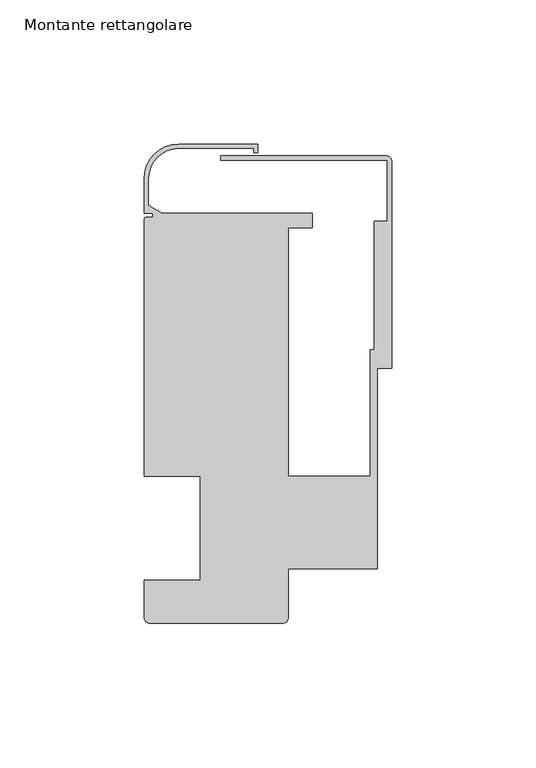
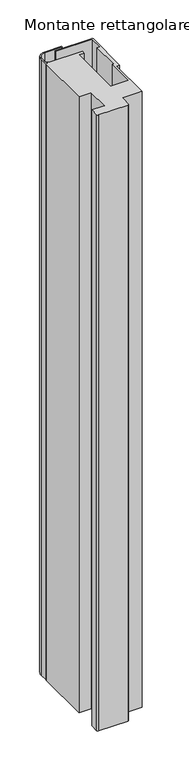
"""IFC4 building model written with IfcOpenShell, lengths in millimetres: member geometry, Montante rettangolare : Aluk_SL50_Nodo terminale_attacco superiore."""

from ifc_helpers import new_model, si_unit, point, frame, frame_2d, origin, place, context, project, spatial, polyline, circle_curve, trimmed, segment, composite_curve, outline, extrude, source, transform, mapped, element, save


def montante_rettangolare_b47dfead(model_context):
    return source(origin(), model_context, "Body", "SweptSolid", [
        extrude(outline(composite_curve([segment(polyline([(-85.9078859, -32.6033105), (-85.9078859, -19.6051927), (-66.3811948, -19.6051927), (-66.3811948, 16.4), (-85.8811948, 16.4), (-85.8811948, 105.4)]), True, "CONTINUOUS"), segment(trimmed(circle_curve(frame_2d((-84.8811948, 105.4)), 1.0), [point((-85.8811948, 105.4))], [point((-84.8811948, 106.4))], False, "CARTESIAN"), True, "CONTINUOUS"), segment(polyline([(-84.8811948, 106.4), (-82.9780339, 106.4), (-82.9780339, 107.75), (-85.8811948, 107.75), (-85.8811948, 119.75)]), True, "CONTINUOUS"), segment(trimmed(circle_curve(frame_2d((-73.8811948, 119.75)), 12.0), [point((-85.8811948, 119.75))], [point((-73.8811948, 131.75))], False, "CARTESIAN"), True, "CONTINUOUS"), segment(polyline([(-73.8811948, 131.75), (-46.3811948, 131.75), (-46.3811948, 128.75), (-47.8811948, 128.75), (-47.8811948, 130.2567765), (-74.0925169, 130.2567765)]), True, "CONTINUOUS"), segment(trimmed(circle_curve(frame_2d((-73.8811948, 119.75)), 10.5089014), [point((-74.0925169, 130.2567765))], [point((-84.3900963, 119.75))], True, "CARTESIAN"), True, "CONTINUOUS"), segment(polyline([(-84.3900963, 119.75), (-84.3900963, 110.4859933), (-79.8366388, 107.75), (-27.5486521, 107.75), (-27.5486521, 102.75), (-35.8811948, 102.75), (-35.8811948, 16.4), (-7.4255814, 16.4), (-7.4255814, 60.4), (-6.0, 60.4), (-6.0, 104.9078675), (-1.5, 104.9078675), (-1.5, 126.1774574), (-59.3545768, 126.1774574), (-59.3545768, 127.6774574), (-2.0, 127.6774574)]), True, "CONTINUOUS"), segment(trimmed(circle_curve(frame_2d((-2.0, 125.6774574)), 2.0), [point((-2.0, 127.6774574))], [point((0.0, 125.6774574))], False, "CARTESIAN"), True, "CONTINUOUS"), segment(polyline([(0.0, 125.6774574), (0.0, 53.8662034), (-4.9255814, 53.8662034), (-4.9255814, -15.605185), (-35.8912323, -15.605185), (-35.8912323, -19.6051927), (-35.8912323, -32.602292)]), True, "CONTINUOUS"), segment(trimmed(circle_curve(frame_2d((-37.891232, -32.602292)), 1.9999997), [point((-35.8912323, -32.602292))], [point((-37.891232, -34.6022918))], False, "CARTESIAN"), True, "CONTINUOUS"), segment(polyline([(-37.891232, -34.6022918), (-83.9089046, -34.6022918)]), True, "CONTINUOUS"), segment(trimmed(circle_curve(frame_2d((-83.9089046, -32.6033105)), 1.9989813), [point((-83.9089046, -34.6022918))], [point((-85.9078859, -32.6033105))], False, "CARTESIAN"), True, "CONTINUOUS")], self_intersect=False)), frame((0.0, 0.0, -1024.6428571), z_axis=(0.0, 0.0, 1.0), x_axis=(1.0, 0.0, 0.0)), (0.0, 0.0, 1.0), 1024.6428571),
    ])


if __name__ == "__main__":
    model = new_model("IFC4")
    model_context = context("Model", 3, world=origin())
    ifc_project = project(units=[si_unit("LENGTHUNIT", "METRE", prefix="MILLI")], contexts=[model_context])
    site = spatial("IfcSite", under=ifc_project)
    building = spatial("IfcBuilding", under=site)
    placement = place(None, origin())
    montante_rettangolare_shape = montante_rettangolare_b47dfead(model_context)
    element("IfcMember", 1, ObjectType="Montante rettangolare : Aluk_SL50_Nodo terminale_attacco superiore", at=placement, inside=building, context=model_context, shape_type="MappedRepresentation", body=[
        mapped(montante_rettangolare_shape, transform((0.0, 0.0, 0.0), x_axis=(1.0, 0.0, 0.0), y_axis=(0.0, 1.0, 0.0), z_axis=(0.0, 0.0, 1.0))),
    ])
    save(model, "model.ifc")
